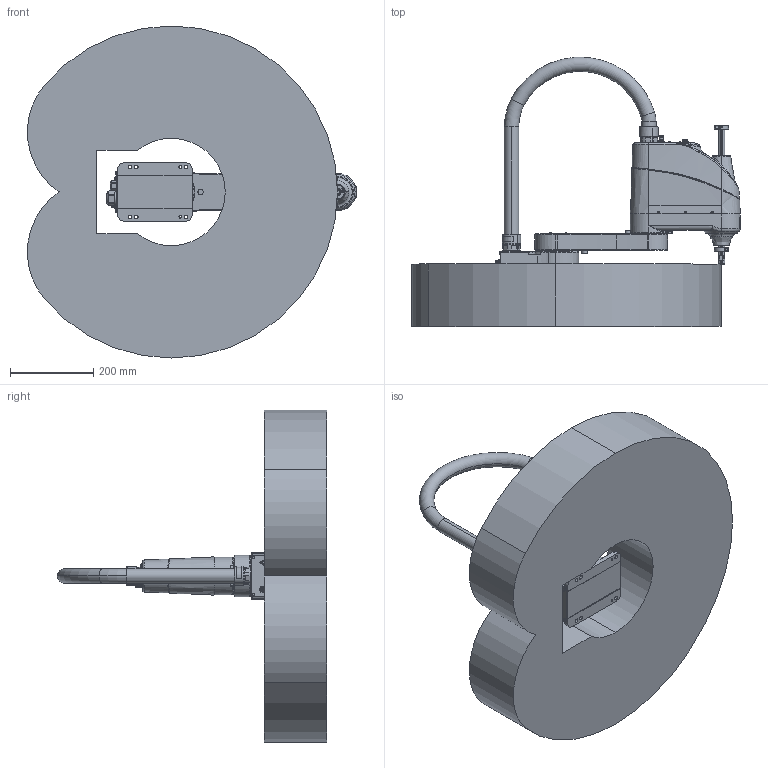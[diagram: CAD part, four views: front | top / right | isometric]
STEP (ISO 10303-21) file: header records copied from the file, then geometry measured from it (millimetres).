
FILE_DESCRIPTION (( 'STEP AP214' ), '1' );
FILE_NAME ('KLS400-03N 諦蚚耀倰.STEP', '2025-04-03T07:39:45', ( '' ), ( '' ), 'SwSTEP 2.0', 'SolidWorks 2020', '' );
FILE_SCHEMA (( 'AUTOMOTIVE_DESIGN' ));
Length unit declared in the file: millimetre
Products named in the file (7): KLS400 疏恇奪_defeature1.0; KLS400 苤旋_defeature1.0; KLS400 佪裝_defeature1.0; 400堍雄諾潔; KLS400 菁釱_defeature1.0; KLS400-03N 諦蚚耀倰; KLS400 湮旋_defeature1.0
Assembly tree (6 placements, depth 2):
  KLS400-03N 諦蚚耀倰
    KLS400 疏恇奪_defeature1.0
    KLS400 湮旋_defeature1.0
    KLS400 菁釱_defeature1.0
    KLS400 佪裝_defeature1.0
    KLS400 苤旋_defeature1.0
    400堍雄諾潔
Bounding box: 793.28 x 648.46 x 800 mm (x, y, z)
Volume: 71091190.2 mm3; surface area: 1896880.2 mm2
Topology: 6 solids, 6 shells, 1392 faces, 3443 edges, 2146 vertices
Faces by surface type: cylinder 510, plane 437, torus 173, bspline 129, cone 127, sphere 16
Entity records: 69851 total; most frequent: CARTESIAN_POINT 21585, DIRECTION 7076, ORIENTED_EDGE 6806, EDGE_CURVE 3403, AXIS2_PLACEMENT_3D 2874, VERTEX_POINT 2146, CIRCLE 1602, EDGE_LOOP 1565
